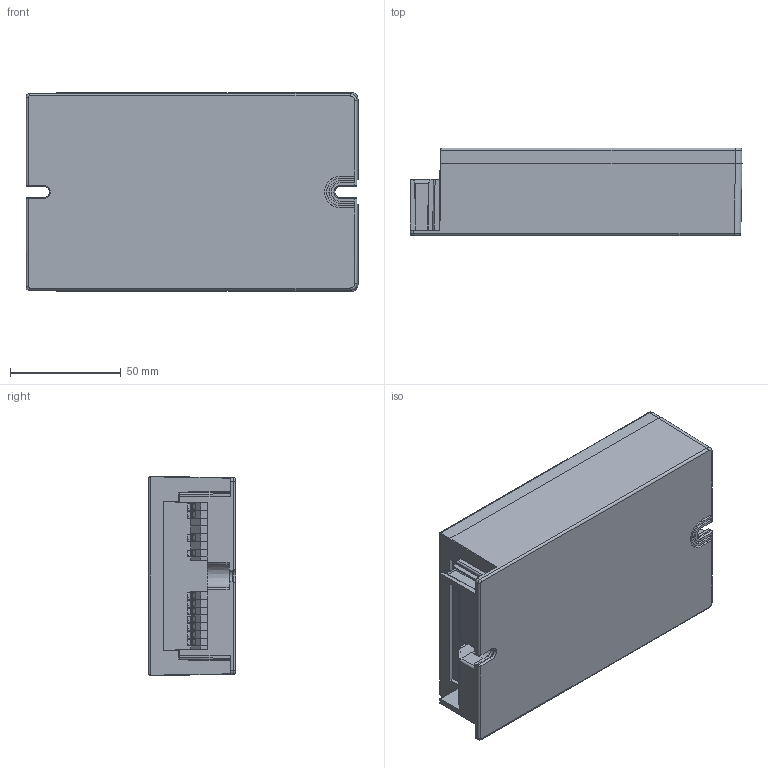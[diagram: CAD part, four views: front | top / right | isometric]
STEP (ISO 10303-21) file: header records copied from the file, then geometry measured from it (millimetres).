
FILE_DESCRIPTION (( 'STEP AP214' ), '1' );
FILE_NAME ('150W_IP20.STEP', '2021-07-28T06:41:18', ( '' ), ( '' ), 'SwSTEP 2.0', 'SolidWorks 2020', '' );
FILE_SCHEMA (( 'AUTOMOTIVE_DESIGN' ));
Length unit declared in the file: millimetre
Products named in the file (1): 150W_IP20
Bounding box: 149.93 x 39.5 x 89.83 mm (x, y, z)
Volume: 492568.3 mm3; surface area: 54203.5 mm2
Topology: 2 solids, 2 shells, 711 faces, 1753 edges, 1029 vertices
Faces by surface type: plane 514, cylinder 120, cone 42, bspline 24, sphere 8, torus 3
Entity records: 24906 total; most frequent: CARTESIAN_POINT 5036, ORIENTED_EDGE 3494, DIRECTION 3177, EDGE_CURVE 1747, VECTOR 1401, LINE 1401, VERTEX_POINT 1029, AXIS2_PLACEMENT_3D 888
